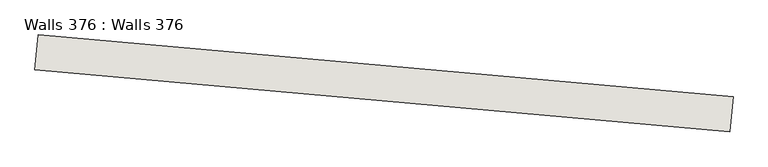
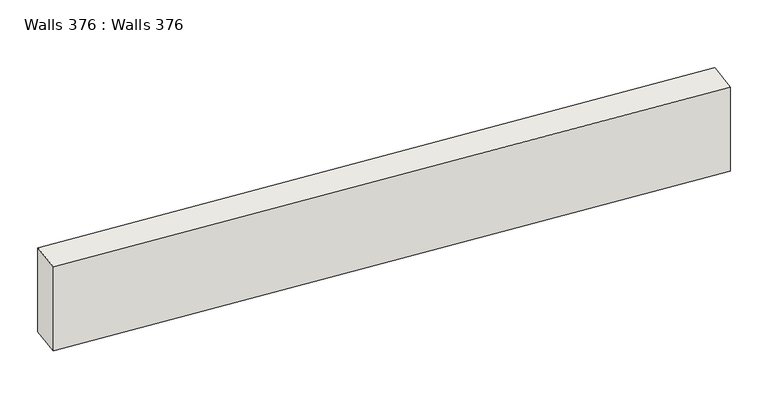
"""IFC4 building model written with IfcOpenShell, lengths in millimetres: wall geometry, Walls 376 : Walls 376."""

from ifc_helpers import new_model, si_unit, frame, origin, place, context, project, spatial, polyline, outline, extrude, source, transform, mapped, element, save


def walls_376_walls_376_bb912ca0(model_context):
    return source(origin(), model_context, "Body", "SweptSolid", [
        extrude(outline(polyline([(-650728.3131179, -420706.3318039), (-650763.808048, -421104.7538288), (-658732.2485463, -420394.8552275), (-658696.7536162, -419996.4332026), (-650728.3131179, -420706.3318039)])), frame((0.0, 0.0, 635860.0), z_axis=(0.0, 0.0, 1.0), x_axis=(1.0, 0.0, 0.0)), (0.0, 0.0, 1.0), 1100.0),
    ])


if __name__ == "__main__":
    model = new_model("IFC4")
    model_context = context("Model", 3, world=origin())
    ifc_project = project(units=[si_unit("LENGTHUNIT", "METRE", prefix="MILLI")], contexts=[model_context])
    site = spatial("IfcSite", under=ifc_project)
    building = spatial("IfcBuilding", under=site)
    placement = place(None, origin())
    walls_376_walls_376_shape = walls_376_walls_376_bb912ca0(model_context)
    element("IfcWall", 1, ObjectType="Walls 376 : Walls 376", at=placement, inside=building, context=model_context, shape_type="MappedRepresentation", body=[
        mapped(walls_376_walls_376_shape, transform((0.0, 0.0, 0.0), x_axis=(1.0, 0.0, 0.0), y_axis=(0.0, 1.0, 0.0), z_axis=(0.0, 0.0, 1.0))),
    ])
    save(model, "model.ifc")
